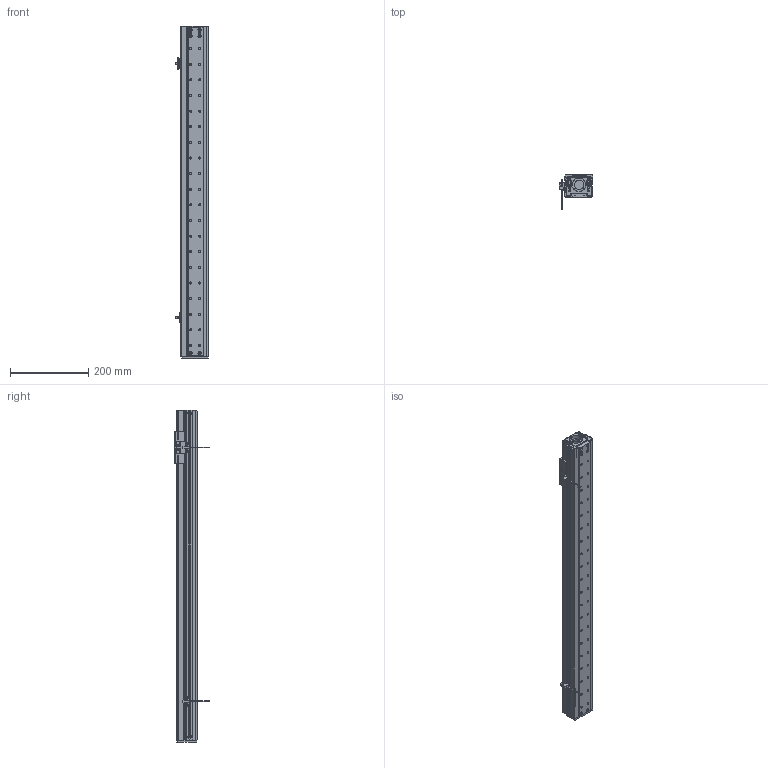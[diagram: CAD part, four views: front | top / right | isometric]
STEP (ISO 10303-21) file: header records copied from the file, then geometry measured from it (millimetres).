
FILE_DESCRIPTION (( 'STEP AP203' ), '1' );
FILE_NAME ('CTHM6-S650.STEP', '2019-12-18T01:53:34', ( '微软用户' ), ( '微软中国' ), 'SwSTEP 2.0', 'SolidWorks 2017', '' );
FILE_SCHEMA (( 'CONFIG_CONTROL_DESIGN' ));
Length unit declared in the file: millimetre
Products named in the file (17): 侧挡板2(带磁条修改厚度); 固定侧轴承座(自制轴承座); M3-L6半圆头内六角螺丝; 羲壽え; M3-L6囀鞠褒蹟佪; 支持侧轴承座(带磁条); EE-SX672-BR; 遣喳蝶15x12x8; 滅袉蝶; MG60裔啣; CTHM6-S650; 耜結啣(湍羞); LMW15奻窅; DG60傷裔(祥結傷裔); 蟀諉釱(裔啣党蜊); M4-L10囀鞠褒蹟佪; LMW15AA
Assembly tree (29 placements, depth 2):
  CTHM6-S650
    LMW15奻窅
    蟀諉釱(裔啣党蜊)
    LMW15AA
    固定侧轴承座(自制轴承座)
    羲壽え
    支持侧轴承座(带磁条)
    遣喳蝶15x12x8  x2
    MG60裔啣
    耜結啣(湍羞)
    DG60傷裔(祥結傷裔)
    M4-L10囀鞠褒蹟佪  x2
    侧挡板2(带磁条修改厚度)
    M3-L6半圆头内六角螺丝  x8
    M3-L6囀鞠褒蹟佪  x4
    EE-SX672-BR  x2
    滅袉蝶
Bounding box: 86.7 x 87.8 x 850 mm (x, y, z)
Volume: 852574.2 mm3; surface area: 589898.3 mm2
Topology: 33 solids, 33 shells, 2021 faces, 5162 edges, 3192 vertices
Faces by surface type: plane 800, cylinder 737, cone 370, torus 88, bspline 26
Entity records: 55340 total; most frequent: CARTESIAN_POINT 11455, DIRECTION 9070, ORIENTED_EDGE 8540, EDGE_CURVE 4270, AXIS2_PLACEMENT_3D 3408, VERTEX_POINT 2693, VECTOR 2254, LINE 2254
